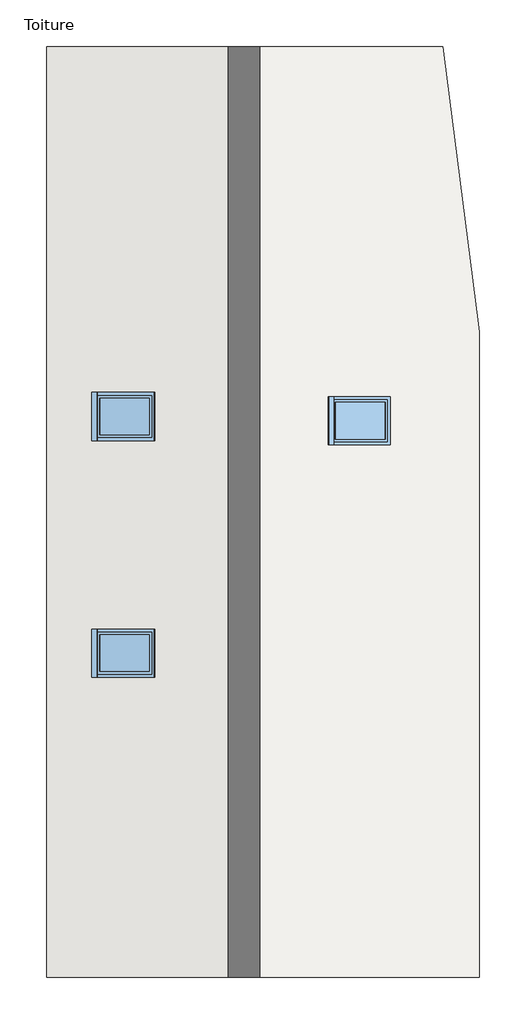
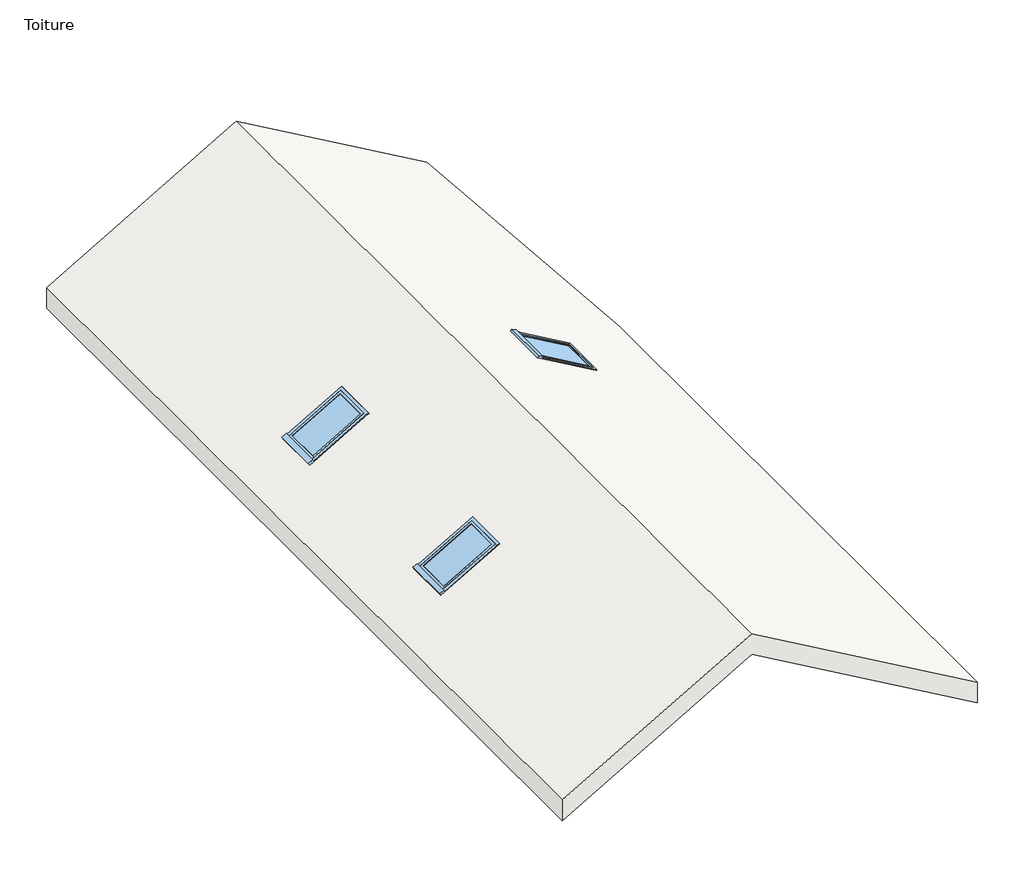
# One storey: 3 windows, 1 roof.
"""IFC4 building model written with IfcOpenShell, lengths in millimetres."""

from ifc_helpers import new_model, si_unit, origin, place, context, project, spatial, faceted_brep, transform, mapped, element, save
from components import window_fea40982

model = new_model("IFC4")

# Units and contexts
model_context = context("Model", 3, world=origin())
ifc_project = project(units=[si_unit("LENGTHUNIT", "METRE", prefix="MILLI")], contexts=[model_context])

# Site, building, storey
site = spatial("IfcSite", under=ifc_project)
building = spatial("IfcBuilding", under=site)
storey = spatial("IfcBuildingStorey", under=building, Name="Toiture", Elevation=5500.0)

# Roof
placement = place(None, origin())
element("IfcRoof", 1, ObjectType="Toiture métallique", at=placement, inside=storey, context=model_context, shape_type="Brep", body=[
    faceted_brep([(-7936.697342, 7854.9574199, 4261.5470054), (-4161.697342, 7854.9574199, 6441.0442716), (-4161.697342, -9935.0425801, 6441.0442716), (-7936.697342, -9935.0425801, 4261.5470054), (-6933.9639044, -4137.5425801, 4840.4754255), (-5234.7334198, -4137.5425801, 5821.5266032), (-5234.7334198, -3337.5425801, 5821.5266032), (-6933.9639044, -3337.5425801, 4840.4754255), (-6933.9639044, 385.4574199, 4840.4754255), (-5234.7334198, 385.4574199, 5821.5266032), (-5234.7334198, 1185.4574199, 5821.5266032), (-6933.9639044, 1185.4574199, 4840.4754255), (-366.697342, 7854.9574199, 4250.0), (333.302658, 2404.9574199, 3845.8548116), (333.302658, -9935.0425801, 3845.8548116), (-2822.8631079, 304.9267611, 5668.0679661), (-1123.6326234, 304.9267611, 4687.0167885), (-1123.6326234, 1104.9267611, 4687.0167885), (-2822.8631079, 1104.9267611, 5668.0679661), (-7936.697342, 7854.9574199, 4700.33321), (-7936.697342, -9935.0425801, 4700.33321), (-4161.697342, -9935.0425801, 6879.8304762), (-4161.697342, 7854.9574199, 6879.8304762), (-7045.5664448, -4197.5425801, 5214.8278734), (-7045.5664448, -3277.5425801, 5214.8278734), (-5867.7718956, -3277.5425801, 5894.8278734), (-5867.7718956, -4197.5425801, 5894.8278734), (-7045.5664448, 325.4574199, 5214.8278734), (-7045.5664448, 1245.4574199, 5214.8278734), (-5867.7718956, 1245.4574199, 5894.8278734), (-5867.7718956, 325.4574199, 5894.8278734), (333.302658, -9935.0425801, 4284.6410162), (333.302658, 2404.9574199, 4284.6410162), (-366.697342, 7854.9574199, 4688.7862046), (-2554.4656483, 244.9267611, 5951.8948252), (-2554.4656483, 1164.9267611, 5951.8948252), (-1376.6710992, 1164.9267611, 5271.8948252), (-1376.6710992, 244.9267611, 5271.8948252), (-6933.9639044, -4137.5425801, 5221.5266032), (-5894.7334198, -4137.5425801, 5821.5266032), (-5894.7334198, -3337.5425801, 5821.5266032), (-6933.9639044, -3337.5425801, 5221.5266032), (-7020.5664448, -4197.5425801, 5171.5266032), (-5842.7718956, -4197.5425801, 5851.5266032), (-5842.7718956, -3277.5425801, 5851.5266032), (-7020.5664448, -3277.5425801, 5171.5266032), (-2492.8631079, 304.9267611, 5858.593555), (-1453.6326234, 304.9267611, 5258.593555), (-1453.6326234, 1104.9267611, 5258.593555), (-2492.8631079, 1104.9267611, 5858.593555), (-2579.4656483, 244.9267611, 5908.593555), (-1401.6710992, 244.9267611, 5228.593555), (-1401.6710992, 1164.9267611, 5228.593555), (-2579.4656483, 1164.9267611, 5908.593555), (-6933.9639044, 385.4574199, 5221.5266032), (-5894.7334198, 385.4574199, 5821.5266032), (-5894.7334198, 1185.4574199, 5821.5266032), (-6933.9639044, 1185.4574199, 5221.5266032), (-7020.5664448, 325.4574199, 5171.5266032), (-5842.7718956, 325.4574199, 5851.5266032), (-5842.7718956, 1245.4574199, 5851.5266032), (-7020.5664448, 1245.4574199, 5171.5266032)], [[[0, 1, 2, 3], [4, 5, 6, 7], [8, 9, 10, 11]], [[2, 1, 12, 13, 14], [15, 16, 17, 18]], [[19, 20, 21, 22], [23, 24, 25, 26], [27, 28, 29, 30]], [[22, 21, 31, 32, 33], [34, 35, 36, 37]], [[20, 19, 0, 3]], [[31, 14, 13, 32]], [[1, 0, 19, 22, 33, 12]], [[3, 2, 14, 31, 21, 20]], [[13, 12, 33, 32]], [[4, 38, 39, 5]], [[6, 40, 41, 7]], [[42, 43, 44, 45], [39, 38, 41, 40]], [[42, 45, 24, 23]], [[45, 44, 25, 24]], [[44, 43, 26, 25]], [[43, 42, 23, 26]], [[38, 4, 7, 41]], [[5, 39, 40, 6]], [[15, 46, 47, 16]], [[17, 48, 49, 18]], [[50, 51, 52, 53], [47, 46, 49, 48]], [[50, 53, 35, 34]], [[53, 52, 36, 35]], [[52, 51, 37, 36]], [[51, 50, 34, 37]], [[46, 15, 18, 49]], [[16, 47, 48, 17]], [[8, 54, 55, 9]], [[10, 56, 57, 11]], [[58, 59, 60, 61], [55, 54, 57, 56]], [[58, 61, 28, 27]], [[61, 60, 29, 28]], [[60, 59, 30, 29]], [[59, 58, 27, 30]], [[54, 8, 11, 57]], [[9, 55, 56, 10]]]),
])

# Windows
window_shape = window_fea40982(model_context)
element("IfcWindow", 2, ObjectType="Fenêtre de toit : Fenêtre de toit", at=placement, inside=storey, context=model_context, shape_type="MappedRepresentation", body=[
    mapped(window_shape, transform((-4138.2478657, 704.9267611, 1808.7035566), x_axis=(0.0, -1.0, 0.0), y_axis=(0.8660254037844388, 0.0, -0.49999999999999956), z_axis=(0.49999999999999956, 0.0, 0.8660254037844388))),
])
element("IfcWindow", 3, ObjectType="Fenêtre de toit : Fenêtre de toit", at=placement, inside=storey, context=model_context, shape_type="MappedRepresentation", body=[
    mapped(window_shape, transform((-4249.3486621, -3737.5425801, 1771.6366048), x_axis=(0.0, -1.0000000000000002, 0.0), y_axis=(0.8660254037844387, 0.0, 0.5000000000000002), z_axis=(-0.5000000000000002, 0.0, 0.8660254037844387))),
])
element("IfcWindow", 4, ObjectType="Fenêtre de toit : Fenêtre de toit", at=placement, inside=storey, context=model_context, shape_type="MappedRepresentation", body=[
    mapped(window_shape, transform((-4249.3486621, 785.4574199, 1771.6366048), x_axis=(0.0, -1.0000000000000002, 0.0), y_axis=(0.8660254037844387, 0.0, 0.5000000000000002), z_axis=(-0.5000000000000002, 0.0, 0.8660254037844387))),
])

save(model, "model.ifc")
